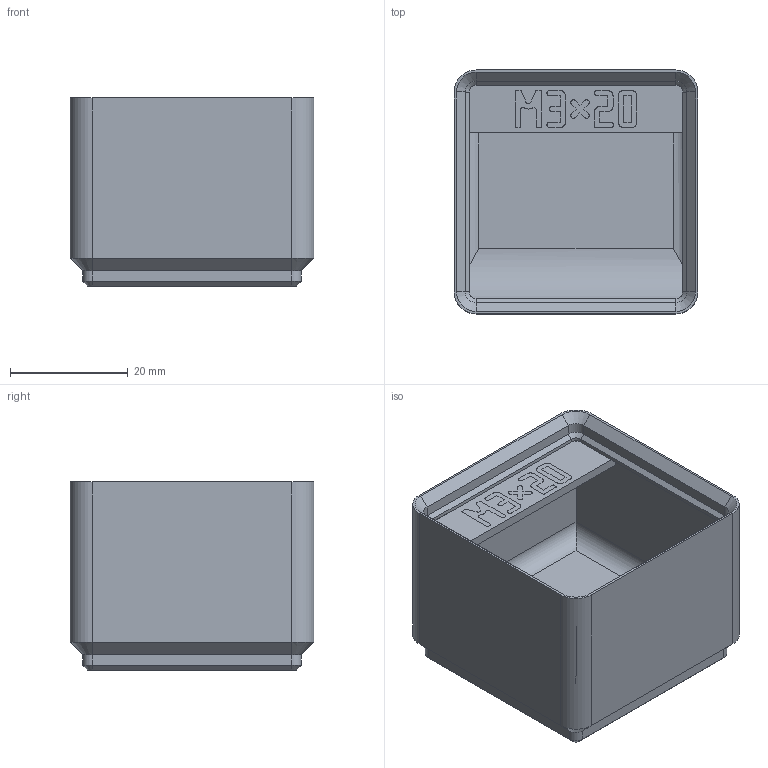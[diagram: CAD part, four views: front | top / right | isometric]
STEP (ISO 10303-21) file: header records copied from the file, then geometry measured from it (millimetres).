
FILE_DESCRIPTION(('Open CASCADE Model'),'2;1');
FILE_NAME('bin_M3_20','2026-11-03T10:52:21',('Author'),('Open CASCADE'), 'Open CASCADE STEP processor 8.0','build123d','Unknown');
FILE_SCHEMA(('AUTOMOTIVE_DESIGN { 1 0 10303 214 1 1 1 1 }'));
Length unit declared in the file: millimetre
Products named in the file (3): bin_M3_20; M3_20_body; M3_20_label
Assembly tree (2 placements, depth 2):
  bin_M3_20
    M3_20_body
    M3_20_label
Bounding box: 41.5 x 41.5 x 32 mm (x, y, z)
Volume: 16774.6 mm3; surface area: 12731.4 mm2
Topology: 6 solids, 6 shells, 1115 faces, 3226 edges, 2130 vertices
Faces by surface type: plane 1075, cylinder 20, cone 20
Entity records: 77909 total; most frequent: CARTESIAN_POINT 13488, DIRECTION 11723, LINE 9378, VECTOR 9378, ORIENTED_EDGE 6452, PCURVE 6452, DEFINITIONAL_REPRESENTATION 6452, EDGE_CURVE 3226
